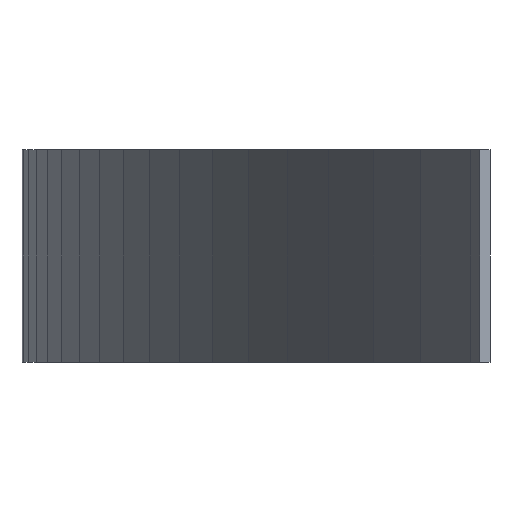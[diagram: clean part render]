
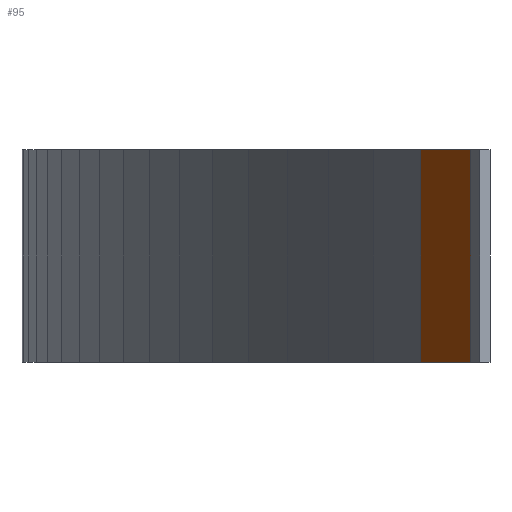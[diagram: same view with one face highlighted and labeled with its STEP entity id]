
A CAD part, front view. The second image highlights one B-rep face of the part: STEP entity #95.
In plain terms, the highlighted planar face has unit normal (-0.869, -0.495, 0).
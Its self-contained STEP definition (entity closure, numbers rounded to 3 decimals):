
#95=ADVANCED_FACE('',(#219),#220,.F.);
#219=FACE_OUTER_BOUND('',#376,.T.);
#220=PLANE('',#377);
#376=EDGE_LOOP('',(#897,#898,#899,#900));
#377=AXIS2_PLACEMENT_3D('',#901,#902,#903);
#897=ORIENTED_EDGE('',*,*,#1331,.T.);
#898=ORIENTED_EDGE('',*,*,#1183,.F.);
#899=ORIENTED_EDGE('',*,*,#1295,.F.);
#900=ORIENTED_EDGE('',*,*,#1253,.F.);
#901=CARTESIAN_POINT('',(-263.163,-150.105,-135.0));
#902=DIRECTION('',(0.869,0.495,0.0));
#903=DIRECTION('',(-0.0,0.0,-1.0));
#1183=EDGE_CURVE('',#1455,#1457,#1458,.T.);
#1253=EDGE_CURVE('',#1593,#1595,#1596,.T.);
#1295=EDGE_CURVE('',#1595,#1455,#1675,.T.);
#1331=EDGE_CURVE('',#1593,#1457,#1711,.T.);
#1455=VERTEX_POINT('',#1881);
#1457=VERTEX_POINT('',#1884);
#1458=LINE('',#1885,#1886);
#1593=VERTEX_POINT('',#2089);
#1595=VERTEX_POINT('',#2092);
#1596=LINE('',#2093,#2094);
#1675=LINE('',#2214,#2215);
#1711=LINE('',#2286,#2287);
#1881=CARTESIAN_POINT('',(-260.805,-154.24,-145.0));
#1884=CARTESIAN_POINT('',(-265.521,-145.971,-145.0));
#1885=CARTESIAN_POINT('',(-263.163,-150.105,-145.0));
#1886=VECTOR('',#2399,1.0);
#2089=CARTESIAN_POINT('',(-265.521,-145.971,-125.0));
#2092=CARTESIAN_POINT('',(-260.805,-154.24,-125.0));
#2093=CARTESIAN_POINT('',(-263.163,-150.105,-125.0));
#2094=VECTOR('',#2469,1.0);
#2214=CARTESIAN_POINT('',(-260.805,-154.24,-135.0));
#2215=VECTOR('',#2511,1.0);
#2286=CARTESIAN_POINT('',(-265.521,-145.971,-135.0));
#2287=VECTOR('',#2547,1.0);
#2399=DIRECTION('',(-0.495,0.869,0.0));
#2469=DIRECTION('',(0.495,-0.869,0.0));
#2511=DIRECTION('',(0.0,0.0,-1.0));
#2547=DIRECTION('',(0.0,0.0,-1.0));
